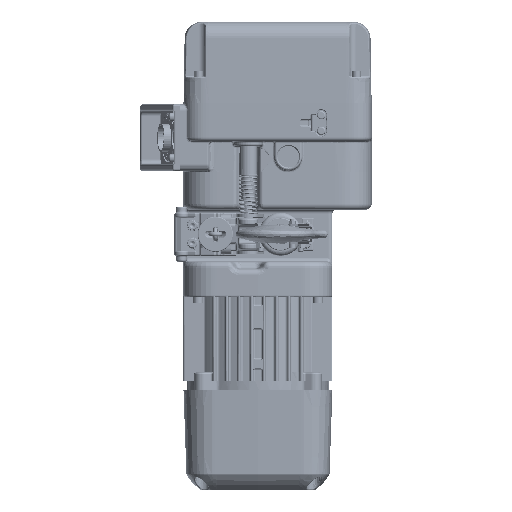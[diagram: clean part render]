
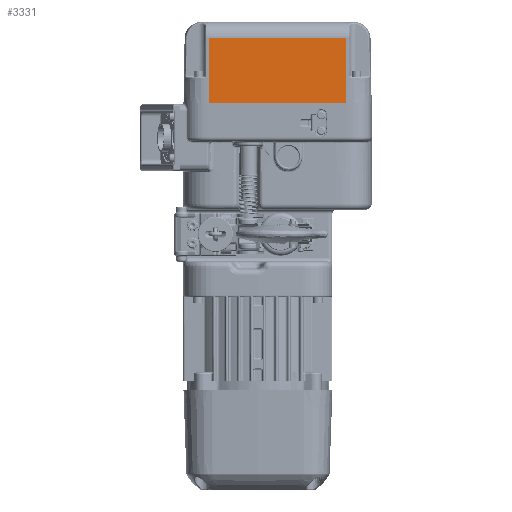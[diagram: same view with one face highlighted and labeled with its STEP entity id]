
A CAD part, front view. The second image highlights one B-rep face of the part: STEP entity #3331.
In plain terms, the highlighted planar face has unit normal (0, -1, 0.018).
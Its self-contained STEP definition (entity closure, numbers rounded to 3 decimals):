
#2536 = ORIENTED_EDGE ( 'NONE', *, *, #150178, .F. ) ;
#3331 = ADVANCED_FACE ( 'NONE', ( #147052 ), #97568, .T. ) ;
#9138 = CARTESIAN_POINT ( 'NONE',  ( 0., -83.5, 0. ) ) ;
#24359 = LINE ( 'NONE', #60736, #52744 ) ;
#33396 = VERTEX_POINT ( 'NONE', #160527 ) ;
#35925 = LINE ( 'NONE', #36726, #77561 ) ;
#36726 = CARTESIAN_POINT ( 'NONE',  ( -69.847, -83.5, 0. ) ) ;
#45313 = AXIS2_PLACEMENT_3D ( 'NONE', #9138, #82723, #146266 ) ;
#50477 = VERTEX_POINT ( 'NONE', #100932 ) ;
#52744 = VECTOR ( 'NONE', #163115, 1000. ) ;
#57259 = DIRECTION ( 'NONE',  ( -1., 0., 0. ) ) ;
#60736 = CARTESIAN_POINT ( 'NONE',  ( 69.847, -83.5, 0. ) ) ;
#61528 = DIRECTION ( 'NONE',  ( 0., -0.017, -1. ) ) ;
#65903 = EDGE_CURVE ( 'NONE', #154123, #121456, #35925, .T. ) ;
#69402 = VECTOR ( 'NONE', #139379, 1000. ) ;
#72462 = VECTOR ( 'NONE', #57259, 1000. ) ;
#76671 = LINE ( 'NONE', #100661, #69402 ) ;
#77561 = VECTOR ( 'NONE', #61528, 1000. ) ;
#82723 = DIRECTION ( 'NONE',  ( 0., -1., 0.017 ) ) ;
#95277 = EDGE_LOOP ( 'NONE', ( #2536, #156385, #109226, #135224 ) ) ;
#97568 = PLANE ( 'NONE',  #45313 ) ;
#99444 = EDGE_CURVE ( 'NONE', #33396, #121456, #146383, .T. ) ;
#100661 = CARTESIAN_POINT ( 'NONE',  ( 0., -82.343, 66.297 ) ) ;
#100932 = CARTESIAN_POINT ( 'NONE',  ( 69.847, -82.343, 66.297 ) ) ;
#109226 = ORIENTED_EDGE ( 'NONE', *, *, #65903, .T. ) ;
#121456 = VERTEX_POINT ( 'NONE', #150613 ) ;
#135224 = ORIENTED_EDGE ( 'NONE', *, *, #99444, .F. ) ;
#139379 = DIRECTION ( 'NONE',  ( -1., 0., 0. ) ) ;
#141179 = CARTESIAN_POINT ( 'NONE',  ( -69.847, -82.343, 66.297 ) ) ;
#143146 = CARTESIAN_POINT ( 'NONE',  ( 0., -83.5, 0. ) ) ;
#145371 = EDGE_CURVE ( 'NONE', #50477, #154123, #76671, .T. ) ;
#146266 = DIRECTION ( 'NONE',  ( 0., -0.017, -1. ) ) ;
#146383 = LINE ( 'NONE', #143146, #72462 ) ;
#147052 = FACE_OUTER_BOUND ( 'NONE', #95277, .T. ) ;
#150178 = EDGE_CURVE ( 'NONE', #50477, #33396, #24359, .T. ) ;
#150613 = CARTESIAN_POINT ( 'NONE',  ( -69.847, -83.5, 0. ) ) ;
#154123 = VERTEX_POINT ( 'NONE', #141179 ) ;
#156385 = ORIENTED_EDGE ( 'NONE', *, *, #145371, .T. ) ;
#160527 = CARTESIAN_POINT ( 'NONE',  ( 69.847, -83.5, 0. ) ) ;
#163115 = DIRECTION ( 'NONE',  ( 0., -0.017, -1. ) ) ;
